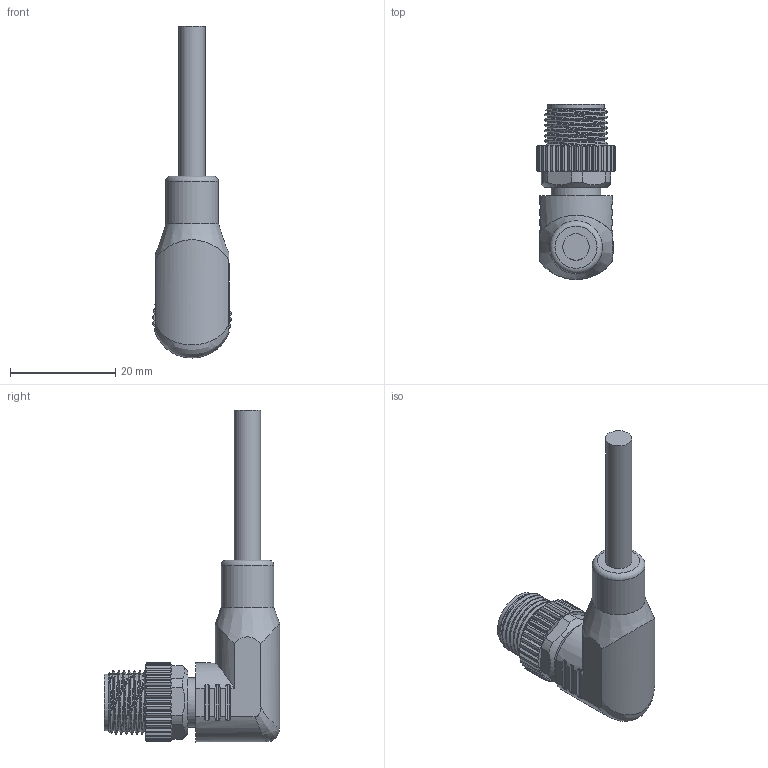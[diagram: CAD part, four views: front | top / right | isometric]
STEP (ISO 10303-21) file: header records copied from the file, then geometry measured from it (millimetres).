
FILE_DESCRIPTION(/* description */ (''),/* implementation_level */ '2;1');
FILE_NAME(/* name */ 'M12-5MR-L.stp',/* time_stamp */ '2021-08-26T16:29:56+08:00',/* author */ (''),/* organization */ (''),/* preprocessor_version */ 'ST-DEVELOPER v16.7',/* originating_system */ 'SIEMENS PLM Software NX 12.0',/* authorisation */ '');
FILE_SCHEMA (('AP203_CONFIGURATION_CONTROLLED_3D_DESIGN_OF_MECHANICAL_PARTS_AND_ASSEMBLIES_MIM_LF { 1 0 10303 403 2 1 2}'));
Length unit declared in the file: millimetre
Products named in the file (1): Admi438009D7fffr
Bounding box: 15 x 33.25 x 63 mm (x, y, z)
Volume: 6994.9 mm3; surface area: 4939.4 mm2
Topology: 1 solids, 16 shells, 559 faces, 1531 edges, 1007 vertices
Faces by surface type: plane 219, cylinder 195, cone 100, extrusion 16, bspline 13, sphere 10, torus 6
Full cylindrical faces by diameter (mm): 2.1 x15, 5 x1, 9.4 x1, 9.5 x1, 10 x1, 10.8 x1
Entity records: 20317 total; most frequent: CARTESIAN_POINT 6463, ORIENTED_EDGE 2952, DIRECTION 2723, EDGE_CURVE 1476, AXIS2_PLACEMENT_3D 1007, VERTEX_POINT 990, VECTOR 709, LINE 693
